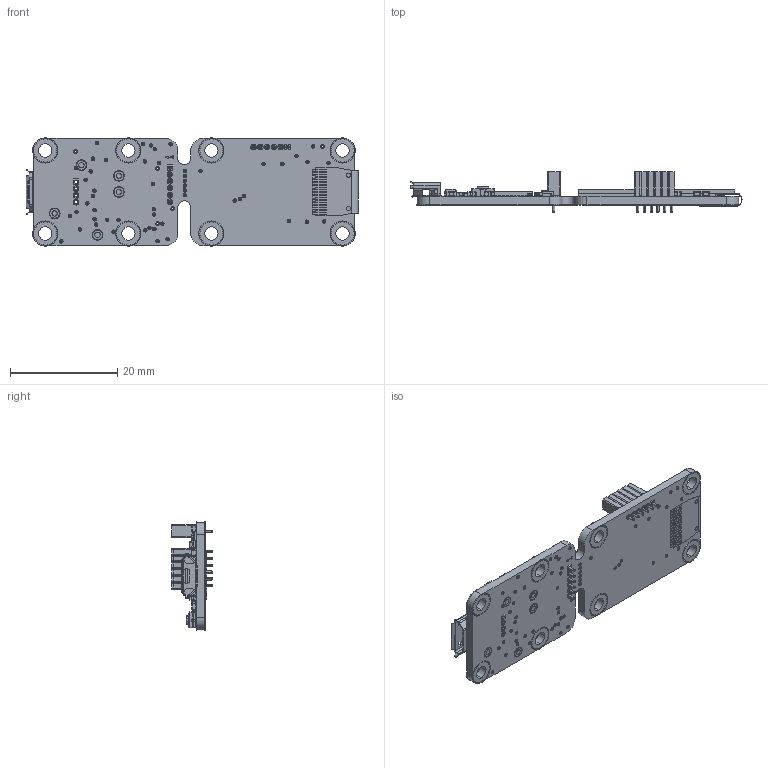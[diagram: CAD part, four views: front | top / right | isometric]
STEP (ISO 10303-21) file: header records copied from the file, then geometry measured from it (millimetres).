
FILE_DESCRIPTION (( 'STEP AP214' ), '1' );
FILE_NAME ('yoctodisplay2.STEP', '2014-01-28T10:08:27', ( 'martinm' ), ( '' ), 'SwSTEP 2.0', 'SolidWorks 2008', '' );
FILE_SCHEMA (( 'AUTOMOTIVE_DESIGN' ));
Length unit declared in the file: millimetre
Products named in the file (27): PCB; C1; C17; C18; C19; C21; C31; CPU1; DISP1_Défaut; P3; R1; R5; R7; R8; R12; R15; R18; R20; R28; R29; REG2; T1; USB1; YBUTTON; YLED; sens1; yoctodisplay2
Assembly tree (46 placements, depth 2):
  yoctodisplay2
    PCB
    C17  x7
    R18  x2
    C18  x2
    CPU1
    R5
    R29
    C19  x6
    R7
    R8  x2
    R20  x2
    C31
    P3  x2
    REG2  x2
    USB1
    R12
    YBUTTON
    C21  x4
    R1
    YLED
    DISP1_Défaut
    C1
    R15
    T1
    sens1
    R28
Bounding box: 61.98 x 7.6 x 20.2 mm (x, y, z)
Volume: 2469.2 mm3; surface area: 6027.5 mm2
Topology: 65 solids, 65 shells, 6564 faces, 16814 edges, 10798 vertices
Faces by surface type: plane 4130, cylinder 1793, bspline 442, sphere 168, torus 31
Entity records: 238440 total; most frequent: CARTESIAN_POINT 52342, ORIENTED_EDGE 27856, DIRECTION 26167, EDGE_CURVE 13928, VECTOR 10131, LINE 10131, VERTEX_POINT 9172, AXIS2_PLACEMENT_3D 8018
